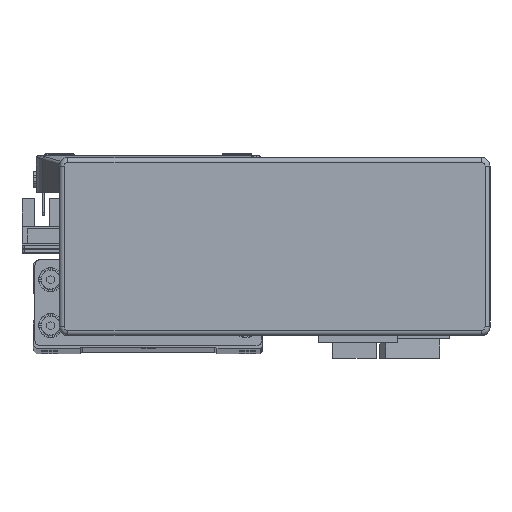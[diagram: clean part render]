
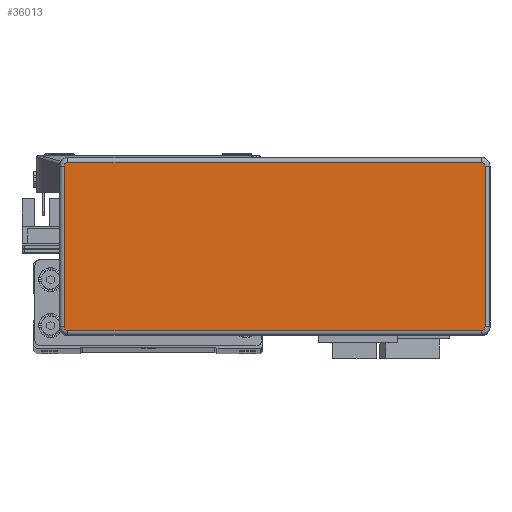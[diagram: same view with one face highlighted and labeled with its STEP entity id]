
A CAD part, top view. The second image highlights one B-rep face of the part: STEP entity #36013.
In plain terms, the highlighted planar face has unit normal (0, 0, 1) as drawn and (0, 0, -1) by its records, which use the part's own axes.
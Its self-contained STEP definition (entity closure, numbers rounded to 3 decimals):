
#5328 = EDGE_CURVE ( 'NONE', #41239, #41229, #46273, .T. ) ;
#5337 = EDGE_CURVE ( 'NONE', #12742, #12700, #46233, .T. ) ;
#5377 = EDGE_CURVE ( 'NONE', #41229, #12742, #46324, .T. ) ;
#5422 = EDGE_CURVE ( 'NONE', #12672, #12669, #46342, .T. ) ;
#5426 = EDGE_CURVE ( 'NONE', #12669, #12732, #46333, .T. ) ;
#5441 = EDGE_CURVE ( 'NONE', #12732, #41239, #46379, .T. ) ;
#5444 = EDGE_CURVE ( 'NONE', #12700, #41213, #46400, .T. ) ;
#5457 = EDGE_CURVE ( 'NONE', #41213, #12672, #46435, .T. ) ;
#10392 = CARTESIAN_POINT ( 'NONE',  ( 73.295, 27.995, -32.2 ) ) ;
#10408 = CARTESIAN_POINT ( 'NONE',  ( 73.295, -27.995, -32.2 ) ) ;
#10415 = CARTESIAN_POINT ( 'NONE',  ( -73.295, -27.995, -32.2 ) ) ;
#12669 = VERTEX_POINT ( 'NONE', #32427 ) ;
#12672 = VERTEX_POINT ( 'NONE', #32456 ) ;
#12700 = VERTEX_POINT ( 'NONE', #32506 ) ;
#12732 = VERTEX_POINT ( 'NONE', #32540 ) ;
#12742 = VERTEX_POINT ( 'NONE', #32572 ) ;
#13508 = DIRECTION ( 'NONE',  ( 0., 1., 0. ) ) ;
#13515 = CARTESIAN_POINT ( 'NONE',  ( -73.295, -27.995, -32.2 ) ) ;
#13807 = CARTESIAN_POINT ( 'NONE',  ( 71.995, 29.295, -32.2 ) ) ;
#13813 = DIRECTION ( 'NONE',  ( 0., 0., -1. ) ) ;
#13814 = DIRECTION ( 'NONE',  ( 1., 0., 0. ) ) ;
#13841 = DIRECTION ( 'NONE',  ( 1., 0., 0. ) ) ;
#13842 = CARTESIAN_POINT ( 'NONE',  ( -71.995, 27.995, -32.2 ) ) ;
#13847 = CARTESIAN_POINT ( 'NONE',  ( 71.995, 27.995, -32.2 ) ) ;
#13860 = DIRECTION ( 'NONE',  ( 0., 0., -1. ) ) ;
#13863 = DIRECTION ( 'NONE',  ( 1., 0., 0. ) ) ;
#13864 = DIRECTION ( 'NONE',  ( 1., 0., 0. ) ) ;
#13876 = CARTESIAN_POINT ( 'NONE',  ( -71.995, -27.995, -32.2 ) ) ;
#13878 = DIRECTION ( 'NONE',  ( 0., 0., -1. ) ) ;
#16668 = CARTESIAN_POINT ( 'NONE',  ( 71.995, -29.295, -32.2 ) ) ;
#16689 = DIRECTION ( 'NONE',  ( -1., 0., 0. ) ) ;
#17190 = DIRECTION ( 'NONE',  ( 0., -1., 0. ) ) ;
#17197 = CARTESIAN_POINT ( 'NONE',  ( 73.295, -27.995, -32.2 ) ) ;
#18639 = AXIS2_PLACEMENT_3D ( 'NONE', #22737, #22699, #22687 ) ;
#20133 = CARTESIAN_POINT ( 'NONE',  ( 71.995, -27.995, -32.2 ) ) ;
#20159 = DIRECTION ( 'NONE',  ( 0., 0., -1. ) ) ;
#20174 = DIRECTION ( 'NONE',  ( 1., 0., 0. ) ) ;
#22687 = DIRECTION ( 'NONE',  ( 1., 0., 0. ) ) ;
#22699 = DIRECTION ( 'NONE',  ( 0., 0., 1. ) ) ;
#22722 = PLANE ( 'NONE',  #18639 ) ;
#22737 = CARTESIAN_POINT ( 'NONE',  ( 71.995, -27.995, -32.2 ) ) ;
#30874 = AXIS2_PLACEMENT_3D ( 'NONE', #13842, #13813, #13814 ) ;
#30884 = AXIS2_PLACEMENT_3D ( 'NONE', #20133, #20159, #20174 ) ;
#30963 = AXIS2_PLACEMENT_3D ( 'NONE', #13847, #13860, #13864 ) ;
#30970 = AXIS2_PLACEMENT_3D ( 'NONE', #13876, #13878, #13863 ) ;
#32427 = CARTESIAN_POINT ( 'NONE',  ( -71.995, 29.295, -32.2 ) ) ;
#32456 = CARTESIAN_POINT ( 'NONE',  ( -73.295, 27.995, -32.2 ) ) ;
#32506 = CARTESIAN_POINT ( 'NONE',  ( -71.995, -29.295, -32.2 ) ) ;
#32540 = CARTESIAN_POINT ( 'NONE',  ( 71.995, 29.295, -32.2 ) ) ;
#32572 = CARTESIAN_POINT ( 'NONE',  ( 71.995, -29.295, -32.2 ) ) ;
#36013 = ADVANCED_FACE ( 'NONE', ( #37741 ), #22722, .F. ) ;
#37741 = FACE_OUTER_BOUND ( 'NONE', #43061, .T. ) ;
#41213 = VERTEX_POINT ( 'NONE', #10415 ) ;
#41229 = VERTEX_POINT ( 'NONE', #10408 ) ;
#41239 = VERTEX_POINT ( 'NONE', #10392 ) ;
#43061 = EDGE_LOOP ( 'NONE', ( #47064, #47074, #46966, #46967, #47063, #47069, #47140, #47116 ) ) ;
#46233 = LINE ( 'NONE', #16668, #46247 ) ;
#46247 = VECTOR ( 'NONE', #16689, 1000. ) ;
#46273 = LINE ( 'NONE', #17197, #46275 ) ;
#46275 = VECTOR ( 'NONE', #17190, 1000. ) ;
#46324 = CIRCLE ( 'NONE', #30884, 1.3 ) ;
#46333 = LINE ( 'NONE', #13807, #46337 ) ;
#46337 = VECTOR ( 'NONE', #13841, 1000. ) ;
#46342 = CIRCLE ( 'NONE', #30874, 1.3 ) ;
#46379 = CIRCLE ( 'NONE', #30963, 1.3 ) ;
#46400 = CIRCLE ( 'NONE', #30970, 1.3 ) ;
#46404 = VECTOR ( 'NONE', #13508, 1000. ) ;
#46435 = LINE ( 'NONE', #13515, #46404 ) ;
#46966 = ORIENTED_EDGE ( 'NONE', *, *, #5337, .T. ) ;
#46967 = ORIENTED_EDGE ( 'NONE', *, *, #5444, .T. ) ;
#47063 = ORIENTED_EDGE ( 'NONE', *, *, #5457, .T. ) ;
#47064 = ORIENTED_EDGE ( 'NONE', *, *, #5328, .T. ) ;
#47069 = ORIENTED_EDGE ( 'NONE', *, *, #5422, .T. ) ;
#47074 = ORIENTED_EDGE ( 'NONE', *, *, #5377, .T. ) ;
#47116 = ORIENTED_EDGE ( 'NONE', *, *, #5441, .T. ) ;
#47140 = ORIENTED_EDGE ( 'NONE', *, *, #5426, .T. ) ;
